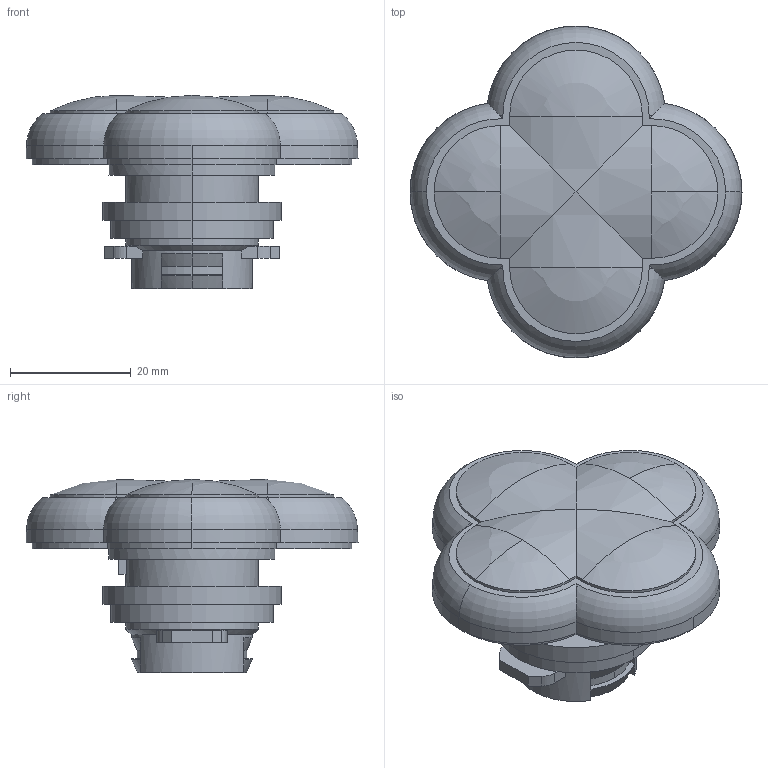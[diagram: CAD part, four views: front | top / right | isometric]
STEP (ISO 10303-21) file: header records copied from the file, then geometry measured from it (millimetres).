
FILE_DESCRIPTION( ( '' ), '1' );
FILE_NAME( '//expscmdclustefs.cadenas.external/client_exchange/iodir/jobs/output/wkb45410570_no0/STEP/279412_2_03.stp', '2012-05-29T20:23:20', ( '' ), ( '' ), ' ', ' ', ' ' );
FILE_SCHEMA( ( 'CONFIG_CONTROL_DESIGN' ) );
Length unit declared in the file: millimetre
Products named in the file (1): 1
Bounding box: 55 x 55 x 32 mm (x, y, z)
Volume: 28303.3 mm3; surface area: 7578.8 mm2
Topology: 1 solids, 1 shells, 116 faces, 303 edges, 190 vertices
Faces by surface type: plane 46, cylinder 36, cone 18, torus 10, sphere 6
Entity records: 3634 total; most frequent: CARTESIAN_POINT 704, DIRECTION 648, ORIENTED_EDGE 594, EDGE_CURVE 297, AXIS2_PLACEMENT_3D 258, VERTEX_POINT 190, CIRCLE 137, LINE 132
